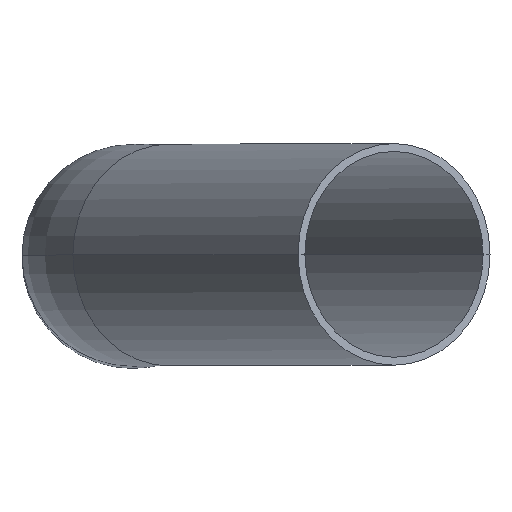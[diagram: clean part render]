
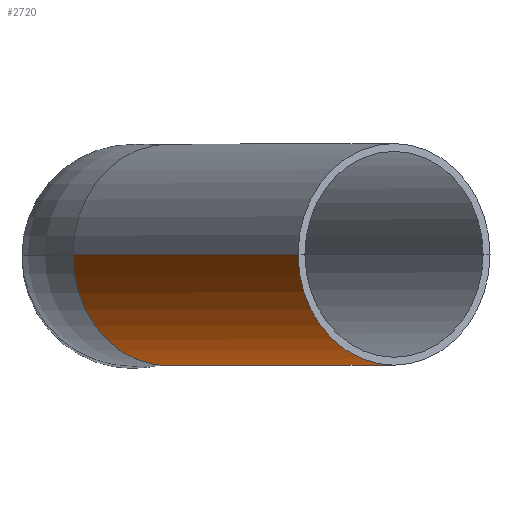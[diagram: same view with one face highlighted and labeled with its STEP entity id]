
A CAD part, top view. The second image highlights one B-rep face of the part: STEP entity #2720.
In plain terms, the highlighted cylindrical face has radius 21 mm (diameter 42 mm), a partial arc.
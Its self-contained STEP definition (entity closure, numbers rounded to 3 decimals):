
#1830=CARTESIAN_POINT('',(75.736,48.566,273.335));
#1840=VERTEX_POINT('',#1830);
#1930=CARTESIAN_POINT('',(39.363,48.566,294.335));
#1940=VERTEX_POINT('',#1930);
#1970=CARTESIAN_POINT('',(57.55,48.566,283.835));
#1980=DIRECTION('',(0.5,0.,0.866));
#1990=DIRECTION('',(0.866,0.,-0.5));
#2000=AXIS2_PLACEMENT_3D('',#1970,#1980,#1990);
#2010=CIRCLE('',#2000,21.);
#2020=EDGE_CURVE('',#1940,#1840,#2010,.T.);
#2350=CARTESIAN_POINT('',(100.217,48.566,357.737));
#2360=DIRECTION('',(0.5,0.,0.866));
#2370=DIRECTION('',(0.866,0.,-0.5));
#2380=AXIS2_PLACEMENT_3D('',#2350,#2360,#2370);
#2390=CIRCLE('',#2380,21.);
#2400=CARTESIAN_POINT('',(118.404,48.566,347.237));
#2410=VERTEX_POINT('',#2400);
#2420=CARTESIAN_POINT('',(82.031,48.566,368.237));
#2430=VERTEX_POINT('',#2420);
#2460=EDGE_CURVE('',#2430,#2410,#2390,.T.);
#2510=CARTESIAN_POINT('',(57.55,48.566,283.835));
#2520=DIRECTION('',(0.5,0.,0.866));
#2530=DIRECTION('',(0.866,0.,-0.5));
#2540=AXIS2_PLACEMENT_3D('',#2510,#2520,#2530);
#2550=CYLINDRICAL_SURFACE('',#2540,21.);
#2560=CARTESIAN_POINT('',(75.736,48.566,273.335));
#2570=DIRECTION('',(0.5,0.,0.866));
#2580=VECTOR('',#2570,1.);
#2590=LINE('',#2560,#2580);
#2600=EDGE_CURVE('',#1840,#2410,#2590,.T.);
#2610=ORIENTED_EDGE('',*,*,#2600,.T.);
#2620=ORIENTED_EDGE('',*,*,#2020,.T.);
#2630=CARTESIAN_POINT('',(39.363,48.566,294.335));
#2640=DIRECTION('',(0.5,0.,0.866));
#2650=VECTOR('',#2640,1.);
#2660=LINE('',#2630,#2650);
#2670=EDGE_CURVE('',#1940,#2430,#2660,.T.);
#2680=ORIENTED_EDGE('',*,*,#2670,.F.);
#2690=ORIENTED_EDGE('',*,*,#2460,.F.);
#2700=EDGE_LOOP('',(#2690,#2680,#2620,#2610));
#2710=FACE_OUTER_BOUND('',#2700,.T.);
#2720=ADVANCED_FACE('',(#2710),#2550,.T.);
